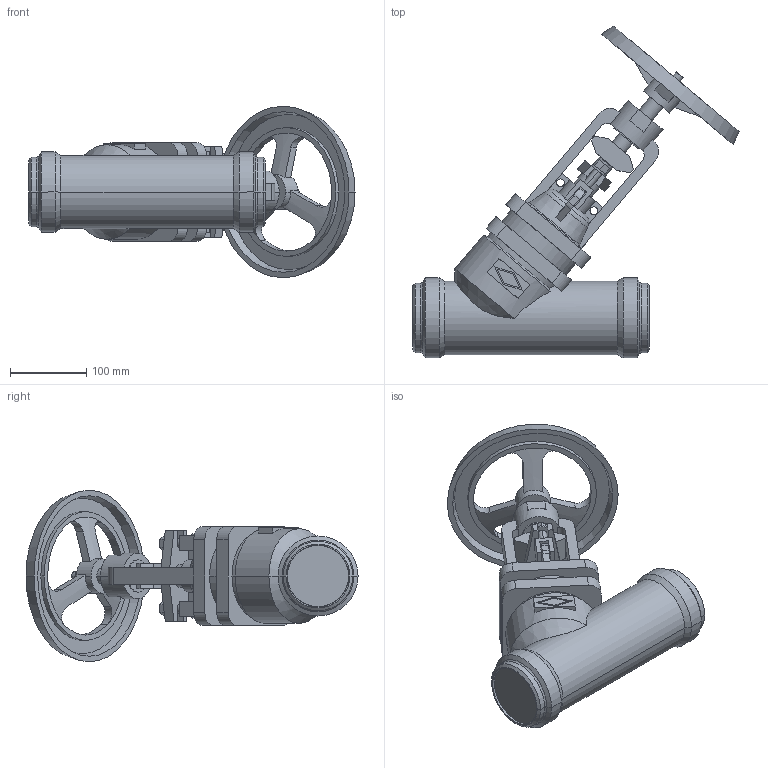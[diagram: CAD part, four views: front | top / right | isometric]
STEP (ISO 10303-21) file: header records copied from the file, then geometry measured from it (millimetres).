
FILE_DESCRIPTION(('OneSpaceDesigner STEP Export'),'2;1');
FILE_NAME('c000004364.stp','2010-05-11T 8:14:08',(''),(''),'OneSpace Designer STEP processor for AP214 (Solid Model)','OneSpace Modeling 15.50B 03-Nov-2007 (C) CoCreate Software GmbH','');
FILE_SCHEMA(('AUTOMOTIVE_DESIGN { 1 0 10303 214 1 1 1 1 }'));
Length unit declared in the file: millimetre
Products named in the file (1): 1
Bounding box: 427.71 x 435.41 x 225 mm (x, y, z)
Volume: 4587490.6 mm3; surface area: 350820.3 mm2
Topology: 1 solids, 1 shells, 290 faces, 747 edges, 481 vertices
Faces by surface type: plane 151, cylinder 83, cone 36, torus 20
Entity records: 11274 total; most frequent: CARTESIAN_POINT 2242, ORIENTED_EDGE 1494, DIRECTION 1250, EDGE_CURVE 747, VERTEX_POINT 481, VECTOR 420, LINE 420, AXIS2_PLACEMENT_3D 415
